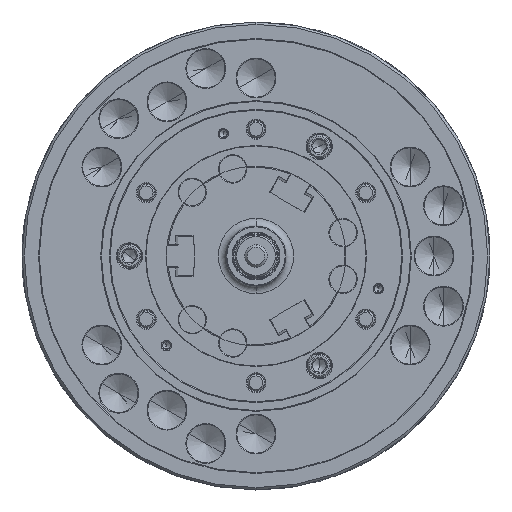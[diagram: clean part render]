
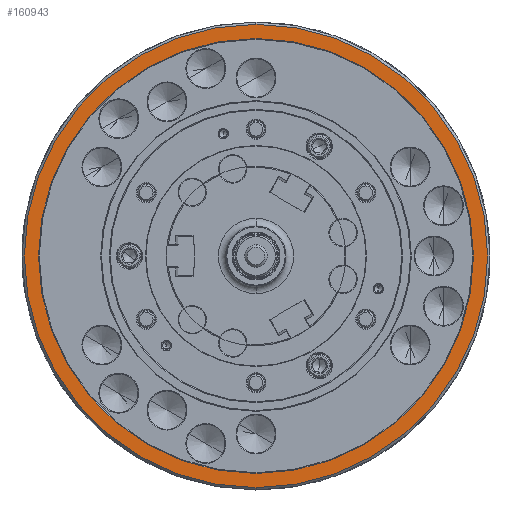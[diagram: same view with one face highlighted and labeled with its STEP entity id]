
A CAD part, left-side view. The second image highlights one B-rep face of the part: STEP entity #160943.
In plain terms, the highlighted planar face has unit normal (-1, 0, 0).
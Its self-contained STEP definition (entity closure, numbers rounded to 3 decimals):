
#3266 = CIRCLE ( 'NONE', #157521, 302. ) ;
#7954 = DIRECTION ( 'NONE',  ( 1., 0., 0. ) ) ;
#22388 = DIRECTION ( 'NONE',  ( -1., 0., 0. ) ) ;
#24329 = ORIENTED_EDGE ( 'NONE', *, *, #175184, .T. ) ;
#25862 = CARTESIAN_POINT ( 'NONE',  ( -125., 302., 0. ) ) ;
#28471 = CARTESIAN_POINT ( 'NONE',  ( -125., 0., -283.5 ) ) ;
#28647 = EDGE_LOOP ( 'NONE', ( #39779, #118947 ) ) ;
#38967 = DIRECTION ( 'NONE',  ( 0., 0., 1. ) ) ;
#39779 = ORIENTED_EDGE ( 'NONE', *, *, #134065, .F. ) ;
#40519 = DIRECTION ( 'NONE',  ( 0., 0., -1. ) ) ;
#47698 = CARTESIAN_POINT ( 'NONE',  ( -125., 0., 302. ) ) ;
#50642 = DIRECTION ( 'NONE',  ( 0., 0., 1. ) ) ;
#53963 = CARTESIAN_POINT ( 'NONE',  ( -125., 0., 0. ) ) ;
#54458 = CIRCLE ( 'NONE', #179973, 283.5 ) ;
#56430 = DIRECTION ( 'NONE',  ( -1., 0., 0. ) ) ;
#57388 = FACE_BOUND ( 'NONE', #28647, .T. ) ;
#73751 = VERTEX_POINT ( 'NONE', #47698 ) ;
#74362 = CARTESIAN_POINT ( 'NONE',  ( -125., 0., 0. ) ) ;
#88514 = AXIS2_PLACEMENT_3D ( 'NONE', #53963, #190990, #50642 ) ;
#89803 = CARTESIAN_POINT ( 'NONE',  ( -125., 0., 0. ) ) ;
#93462 = EDGE_CURVE ( 'NONE', #146828, #104114, #54458, .T. ) ;
#104114 = VERTEX_POINT ( 'NONE', #125529 ) ;
#107150 = ORIENTED_EDGE ( 'NONE', *, *, #148567, .T. ) ;
#108260 = CARTESIAN_POINT ( 'NONE',  ( -125., 0., -302. ) ) ;
#116524 = AXIS2_PLACEMENT_3D ( 'NONE', #74362, #56430, #124949 ) ;
#118947 = ORIENTED_EDGE ( 'NONE', *, *, #93462, .F. ) ;
#122126 = CARTESIAN_POINT ( 'NONE',  ( -125., 0., 0. ) ) ;
#124949 = DIRECTION ( 'NONE',  ( 0., 0., 1. ) ) ;
#125529 = CARTESIAN_POINT ( 'NONE',  ( -125., 0., 283.5 ) ) ;
#125898 = PLANE ( 'NONE',  #154497 ) ;
#127977 = CIRCLE ( 'NONE', #88514, 283.5 ) ;
#134065 = EDGE_CURVE ( 'NONE', #104114, #146828, #127977, .T. ) ;
#142315 = DIRECTION ( 'NONE',  ( -1., 0., 0. ) ) ;
#146828 = VERTEX_POINT ( 'NONE', #28471 ) ;
#148567 = EDGE_CURVE ( 'NONE', #174069, #73751, #213370, .T. ) ;
#154497 = AXIS2_PLACEMENT_3D ( 'NONE', #25862, #7954, #40519 ) ;
#157521 = AXIS2_PLACEMENT_3D ( 'NONE', #122126, #142315, #38967 ) ;
#160943 = ADVANCED_FACE ( 'NONE', ( #57388, #177551 ), #125898, .F. ) ;
#174069 = VERTEX_POINT ( 'NONE', #108260 ) ;
#175184 = EDGE_CURVE ( 'NONE', #73751, #174069, #3266, .T. ) ;
#177551 = FACE_OUTER_BOUND ( 'NONE', #207454, .T. ) ;
#179583 = DIRECTION ( 'NONE',  ( 0., 0., 1. ) ) ;
#179973 = AXIS2_PLACEMENT_3D ( 'NONE', #89803, #22388, #179583 ) ;
#190990 = DIRECTION ( 'NONE',  ( -1., 0., 0. ) ) ;
#207454 = EDGE_LOOP ( 'NONE', ( #107150, #24329 ) ) ;
#213370 = CIRCLE ( 'NONE', #116524, 302. ) ;
